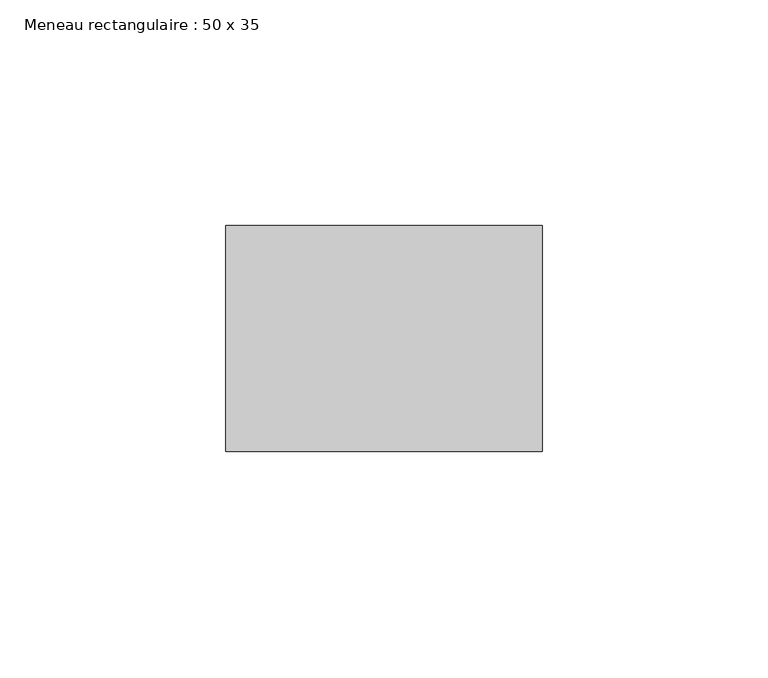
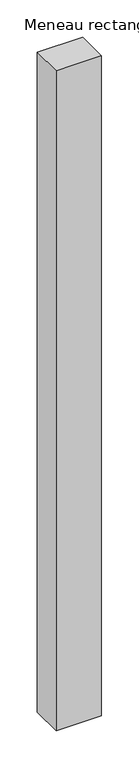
"""IFC4 building model written with IfcOpenShell, lengths in millimetres: member geometry, Meneau rectangulaire : 50 x 35."""

from ifc_helpers import new_model, si_unit, frame, origin, place, context, project, spatial, polyline, outline, extrude, source, transform, mapped, element, save


def meneau_rectangulaire_50_x_35_1b3c6806(model_context):
    return source(origin(), model_context, "Body", "SweptSolid", [
        extrude(outline(polyline([(35.0, 0.0), (35.0, -50.0), (-35.0, -50.0), (-35.0, 0.0), (35.0, 0.0)])), frame((0.0, 0.0, -1077.0179913), z_axis=(0.0, 0.0, 1.0), x_axis=(1.0, 0.0, 0.0)), (0.0, 0.0, 1.0), 1077.0179913),
    ])


if __name__ == "__main__":
    model = new_model("IFC4")
    model_context = context("Model", 3, world=origin())
    ifc_project = project(units=[si_unit("LENGTHUNIT", "METRE", prefix="MILLI")], contexts=[model_context])
    site = spatial("IfcSite", under=ifc_project)
    building = spatial("IfcBuilding", under=site)
    placement = place(None, origin())
    meneau_rectangulaire_50_x_35_shape = meneau_rectangulaire_50_x_35_1b3c6806(model_context)
    element("IfcMember", 1, ObjectType="Meneau rectangulaire : 50 x 35", at=placement, inside=building, context=model_context, shape_type="MappedRepresentation", body=[
        mapped(meneau_rectangulaire_50_x_35_shape, transform((0.0, 0.0, 0.0), x_axis=(1.0, 0.0, 0.0), y_axis=(0.0, 1.0, 0.0), z_axis=(0.0, 0.0, 1.0))),
    ])
    save(model, "model.ifc")
